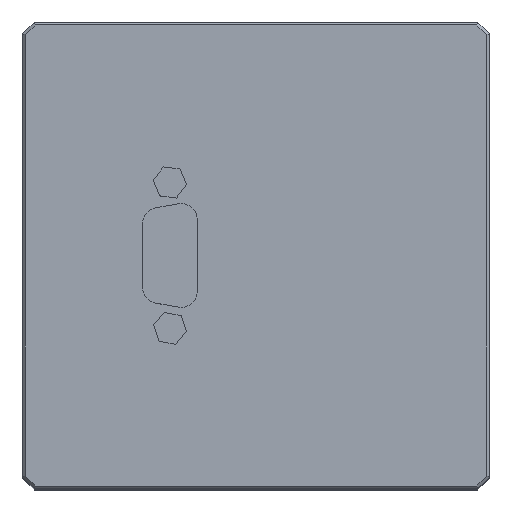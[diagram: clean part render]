
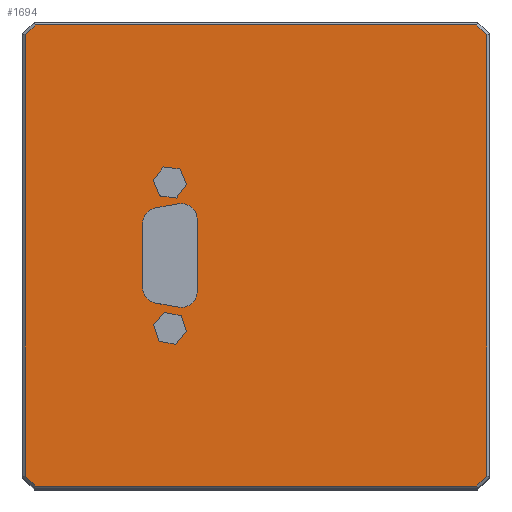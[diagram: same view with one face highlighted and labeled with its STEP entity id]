
A CAD part, top view. The second image highlights one B-rep face of the part: STEP entity #1694.
In plain terms, the highlighted planar face has unit normal (0, 0, 1).
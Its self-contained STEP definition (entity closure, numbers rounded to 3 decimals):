
#1070=LINE('',#4789,#1327);
#1073=LINE('',#4795,#1330);
#1075=LINE('',#4799,#1332);
#1077=LINE('',#4803,#1334);
#1079=LINE('',#4807,#1336);
#1081=LINE('',#4811,#1338);
#1082=LINE('',#4816,#1339);
#1085=LINE('',#4825,#1342);
#1086=LINE('',#4830,#1343);
#1088=LINE('',#4834,#1345);
#1090=LINE('',#4838,#1347);
#1092=LINE('',#4842,#1349);
#1093=LINE('',#4844,#1350);
#1097=LINE('',#4854,#1354);
#1100=LINE('',#4862,#1357);
#1103=LINE('',#4870,#1360);
#1107=LINE('',#4880,#1364);
#1110=LINE('',#4886,#1367);
#1114=LINE('',#4894,#1371);
#1115=LINE('',#4896,#1372);
#1120=LINE('',#4907,#1377);
#1160=LINE('',#5043,#1417);
#1161=LINE('',#5045,#1418);
#1162=LINE('',#5047,#1419);
#1327=VECTOR('',#4087,1.);
#1330=VECTOR('',#4092,1.);
#1332=VECTOR('',#4096,1.);
#1334=VECTOR('',#4100,1.);
#1336=VECTOR('',#4104,1.);
#1338=VECTOR('',#4108,1.);
#1339=VECTOR('',#4111,1.);
#1342=VECTOR('',#4114,1.);
#1343=VECTOR('',#4115,1.);
#1345=VECTOR('',#4119,1.);
#1347=VECTOR('',#4123,1.);
#1349=VECTOR('',#4127,1.);
#1350=VECTOR('',#4130,1.);
#1354=VECTOR('',#4140,1.);
#1357=VECTOR('',#4149,1.);
#1360=VECTOR('',#4158,1.);
#1364=VECTOR('',#4168,1.);
#1367=VECTOR('',#4173,1.);
#1371=VECTOR('',#4179,1.);
#1372=VECTOR('',#4182,1.);
#1377=VECTOR('',#4191,1.);
#1417=VECTOR('',#4301,1.);
#1418=VECTOR('',#4304,1.);
#1419=VECTOR('',#4305,1.);
#1570=FACE_BOUND('',#2038,.T.);
#1571=FACE_BOUND('',#2039,.T.);
#1572=FACE_BOUND('',#2040,.T.);
#1573=FACE_BOUND('',#2041,.T.);
#1694=ADVANCED_FACE('',(#1570,#1571,#1572,#1573),#1795,.F.);
#1795=PLANE('',#3842);
#2038=EDGE_LOOP('',(#2451,#2452,#2453,#2454,#2455,#2456));
#2039=EDGE_LOOP('',(#2457,#2458,#2459,#2460,#2461,#2462));
#2040=EDGE_LOOP('',(#2463,#2464,#2465,#2466,#2467,#2468,#2469,#2470));
#2041=EDGE_LOOP('',(#2471,#2472,#2473,#2474,#2475,#2476,#2477,#2478));
#2451=ORIENTED_EDGE('',*,*,#3359,.T.);
#2452=ORIENTED_EDGE('',*,*,#3362,.T.);
#2453=ORIENTED_EDGE('',*,*,#3364,.T.);
#2454=ORIENTED_EDGE('',*,*,#3366,.T.);
#2455=ORIENTED_EDGE('',*,*,#3368,.T.);
#2456=ORIENTED_EDGE('',*,*,#3370,.T.);
#2457=ORIENTED_EDGE('',*,*,#3372,.T.);
#2458=ORIENTED_EDGE('',*,*,#3375,.T.);
#2459=ORIENTED_EDGE('',*,*,#3376,.T.);
#2460=ORIENTED_EDGE('',*,*,#3378,.T.);
#2461=ORIENTED_EDGE('',*,*,#3380,.T.);
#2462=ORIENTED_EDGE('',*,*,#3382,.T.);
#2463=ORIENTED_EDGE('',*,*,#3383,.T.);
#2464=ORIENTED_EDGE('',*,*,#3386,.T.);
#2465=ORIENTED_EDGE('',*,*,#3388,.T.);
#2466=ORIENTED_EDGE('',*,*,#3391,.T.);
#2467=ORIENTED_EDGE('',*,*,#3392,.T.);
#2468=ORIENTED_EDGE('',*,*,#3394,.T.);
#2469=ORIENTED_EDGE('',*,*,#3396,.T.);
#2470=ORIENTED_EDGE('',*,*,#3398,.T.);
#2471=ORIENTED_EDGE('',*,*,#3401,.T.);
#2472=ORIENTED_EDGE('',*,*,#3404,.T.);
#2473=ORIENTED_EDGE('',*,*,#3414,.T.);
#2474=ORIENTED_EDGE('',*,*,#3475,.T.);
#2475=ORIENTED_EDGE('',*,*,#3476,.T.);
#2476=ORIENTED_EDGE('',*,*,#3474,.T.);
#2477=ORIENTED_EDGE('',*,*,#3408,.T.);
#2478=ORIENTED_EDGE('',*,*,#3409,.T.);
#3005=VERTEX_POINT('',#4790);
#3006=VERTEX_POINT('',#4791);
#3007=VERTEX_POINT('',#4796);
#3008=VERTEX_POINT('',#4800);
#3009=VERTEX_POINT('',#4804);
#3010=VERTEX_POINT('',#4808);
#3011=VERTEX_POINT('',#4815);
#3012=VERTEX_POINT('',#4817);
#3013=VERTEX_POINT('',#4824);
#3014=VERTEX_POINT('',#4831);
#3015=VERTEX_POINT('',#4835);
#3016=VERTEX_POINT('',#4839);
#3017=VERTEX_POINT('',#4845);
#3018=VERTEX_POINT('',#4846);
#3019=VERTEX_POINT('',#4851);
#3020=VERTEX_POINT('',#4855);
#3021=VERTEX_POINT('',#4859);
#3022=VERTEX_POINT('',#4863);
#3023=VERTEX_POINT('',#4867);
#3024=VERTEX_POINT('',#4871);
#3025=VERTEX_POINT('',#4877);
#3026=VERTEX_POINT('',#4879);
#3028=VERTEX_POINT('',#4885);
#3029=VERTEX_POINT('',#4889);
#3031=VERTEX_POINT('',#4893);
#3035=VERTEX_POINT('',#4906);
#3084=VERTEX_POINT('',#5041);
#3085=VERTEX_POINT('',#5046);
#3359=EDGE_CURVE('',#3005,#3006,#1070,.T.);
#3362=EDGE_CURVE('',#3006,#3007,#1073,.T.);
#3364=EDGE_CURVE('',#3007,#3008,#1075,.T.);
#3366=EDGE_CURVE('',#3008,#3009,#1077,.T.);
#3368=EDGE_CURVE('',#3009,#3010,#1079,.T.);
#3370=EDGE_CURVE('',#3010,#3005,#1081,.T.);
#3372=EDGE_CURVE('',#3012,#3011,#1082,.T.);
#3375=EDGE_CURVE('',#3011,#3013,#1085,.T.);
#3376=EDGE_CURVE('',#3013,#3014,#1086,.T.);
#3378=EDGE_CURVE('',#3014,#3015,#1088,.T.);
#3380=EDGE_CURVE('',#3015,#3016,#1090,.T.);
#3382=EDGE_CURVE('',#3016,#3012,#1092,.T.);
#3383=EDGE_CURVE('',#3017,#3018,#1093,.T.);
#3386=EDGE_CURVE('',#3018,#3019,#3702,.T.);
#3388=EDGE_CURVE('',#3019,#3020,#1097,.T.);
#3391=EDGE_CURVE('',#3020,#3021,#3703,.T.);
#3392=EDGE_CURVE('',#3021,#3022,#1100,.T.);
#3394=EDGE_CURVE('',#3022,#3023,#3704,.T.);
#3396=EDGE_CURVE('',#3023,#3024,#1103,.T.);
#3398=EDGE_CURVE('',#3024,#3017,#3705,.T.);
#3401=EDGE_CURVE('',#3025,#3026,#1107,.T.);
#3404=EDGE_CURVE('',#3026,#3028,#1110,.T.);
#3408=EDGE_CURVE('',#3029,#3031,#1114,.T.);
#3409=EDGE_CURVE('',#3031,#3025,#1115,.T.);
#3414=EDGE_CURVE('',#3028,#3035,#1120,.T.);
#3474=EDGE_CURVE('',#3084,#3029,#1160,.T.);
#3475=EDGE_CURVE('',#3035,#3085,#1161,.T.);
#3476=EDGE_CURVE('',#3085,#3084,#1162,.T.);
#3702=CIRCLE('',#3790,2.73);
#3703=CIRCLE('',#3793,2.73);
#3704=CIRCLE('',#3796,2.73);
#3705=CIRCLE('',#3799,2.73);
#3790=AXIS2_PLACEMENT_3D('',#4850,#4135,#4136);
#3793=AXIS2_PLACEMENT_3D('',#4860,#4145,#4146);
#3796=AXIS2_PLACEMENT_3D('',#4866,#4153,#4154);
#3799=AXIS2_PLACEMENT_3D('',#4874,#4162,#4163);
#3842=AXIS2_PLACEMENT_3D('',#5048,#4306,#4307);
#4087=DIRECTION('',(-0.991,0.13,0.));
#4092=DIRECTION('',(-0.383,0.924,0.));
#4096=DIRECTION('',(0.608,0.794,0.));
#4100=DIRECTION('',(0.991,-0.13,0.));
#4104=DIRECTION('',(0.383,-0.924,0.));
#4108=DIRECTION('',(-0.608,-0.794,0.));
#4111=DIRECTION('',(-0.666,-0.746,0.));
#4114=DIRECTION('',(-0.979,0.204,0.));
#4115=DIRECTION('',(-0.313,0.95,0.));
#4119=DIRECTION('',(0.666,0.746,0.));
#4123=DIRECTION('',(0.979,-0.204,0.));
#4127=DIRECTION('',(0.313,-0.95,0.));
#4130=DIRECTION('',(-0.985,0.174,0.));
#4135=DIRECTION('',(0.,0.,-1.));
#4136=DIRECTION('',(0.,-1.,0.));
#4140=DIRECTION('',(0.,1.,0.));
#4145=DIRECTION('',(0.,0.,-1.));
#4146=DIRECTION('',(0.,-1.,0.));
#4149=DIRECTION('',(0.985,0.174,0.));
#4153=DIRECTION('',(0.,0.,-1.));
#4154=DIRECTION('',(0.,-1.,0.));
#4158=DIRECTION('',(0.,-1.,0.));
#4162=DIRECTION('',(0.,0.,-1.));
#4163=DIRECTION('',(0.,-1.,0.));
#4168=DIRECTION('',(-1.,0.,0.));
#4173=DIRECTION('',(-0.707,-0.707,0.));
#4179=DIRECTION('',(0.,1.,0.));
#4182=DIRECTION('',(-0.707,0.707,0.));
#4191=DIRECTION('',(0.,-1.,0.));
#4301=DIRECTION('',(0.707,0.707,0.));
#4304=DIRECTION('',(0.707,-0.707,0.));
#4305=DIRECTION('',(1.,0.,0.));
#4306=DIRECTION('',(0.,0.,-1.));
#4307=DIRECTION('',(-1.,0.,0.));
#4789=CARTESIAN_POINT('',(-13.644,9.833,0.));
#4790=CARTESIAN_POINT('',(-13.644,9.833,0.));
#4791=CARTESIAN_POINT('',(-16.506,10.209,0.));
#4795=CARTESIAN_POINT('',(-16.506,10.209,0.));
#4796=CARTESIAN_POINT('',(-17.612,12.876,0.));
#4799=CARTESIAN_POINT('',(-17.612,12.876,0.));
#4800=CARTESIAN_POINT('',(-15.856,15.167,0.));
#4803=CARTESIAN_POINT('',(-15.856,15.167,0.));
#4804=CARTESIAN_POINT('',(-12.994,14.791,0.));
#4807=CARTESIAN_POINT('',(-12.994,14.791,0.));
#4808=CARTESIAN_POINT('',(-11.888,12.124,0.));
#4811=CARTESIAN_POINT('',(-11.888,12.124,0.));
#4815=CARTESIAN_POINT('',(-13.846,-15.241,0.));
#4816=CARTESIAN_POINT('',(-11.924,-13.088,0.));
#4817=CARTESIAN_POINT('',(-11.924,-13.088,0.));
#4824=CARTESIAN_POINT('',(-16.672,-14.654,0.));
#4825=CARTESIAN_POINT('',(-13.846,-15.241,0.));
#4830=CARTESIAN_POINT('',(-16.672,-14.654,0.));
#4831=CARTESIAN_POINT('',(-17.576,-11.912,0.));
#4834=CARTESIAN_POINT('',(-17.576,-11.912,0.));
#4835=CARTESIAN_POINT('',(-15.654,-9.759,0.));
#4838=CARTESIAN_POINT('',(-15.654,-9.759,0.));
#4839=CARTESIAN_POINT('',(-12.828,-10.346,0.));
#4842=CARTESIAN_POINT('',(-12.828,-10.346,0.));
#4844=CARTESIAN_POINT('',(-13.274,-8.854,0.));
#4845=CARTESIAN_POINT('',(-13.274,-8.854,0.));
#4846=CARTESIAN_POINT('',(-17.174,-8.166,0.));
#4850=CARTESIAN_POINT('',(-16.7,-5.477,0.));
#4851=CARTESIAN_POINT('',(-19.43,-5.477,0.));
#4854=CARTESIAN_POINT('',(-19.43,-5.477,0.));
#4855=CARTESIAN_POINT('',(-19.43,5.477,0.));
#4859=CARTESIAN_POINT('',(-17.174,8.166,0.));
#4860=CARTESIAN_POINT('',(-16.7,5.477,0.));
#4862=CARTESIAN_POINT('',(-17.174,8.166,0.));
#4863=CARTESIAN_POINT('',(-13.274,8.854,0.));
#4866=CARTESIAN_POINT('',(-12.8,6.165,0.));
#4867=CARTESIAN_POINT('',(-10.07,6.165,0.));
#4870=CARTESIAN_POINT('',(-10.07,6.165,0.));
#4871=CARTESIAN_POINT('',(-10.07,-6.165,0.));
#4874=CARTESIAN_POINT('',(-12.8,-6.165,0.));
#4877=CARTESIAN_POINT('',(37.793,39.5,0.));
#4879=CARTESIAN_POINT('',(-37.793,39.5,0.));
#4880=CARTESIAN_POINT('',(0.,39.5,0.));
#4885=CARTESIAN_POINT('',(-39.5,37.793,0.));
#4886=CARTESIAN_POINT('',(-38.646,38.646,0.));
#4889=CARTESIAN_POINT('',(39.5,-37.793,0.));
#4893=CARTESIAN_POINT('',(39.5,37.793,0.));
#4894=CARTESIAN_POINT('',(39.5,0.,0.));
#4896=CARTESIAN_POINT('',(38.646,38.646,0.));
#4906=CARTESIAN_POINT('',(-39.5,-37.793,0.));
#4907=CARTESIAN_POINT('',(-39.5,0.,0.));
#5041=CARTESIAN_POINT('',(37.793,-39.5,0.));
#5043=CARTESIAN_POINT('',(38.646,-38.646,0.));
#5045=CARTESIAN_POINT('',(-38.646,-38.646,0.));
#5046=CARTESIAN_POINT('',(-37.793,-39.5,0.));
#5047=CARTESIAN_POINT('',(0.,-39.5,0.));
#5048=CARTESIAN_POINT('',(10.,10.,0.));
